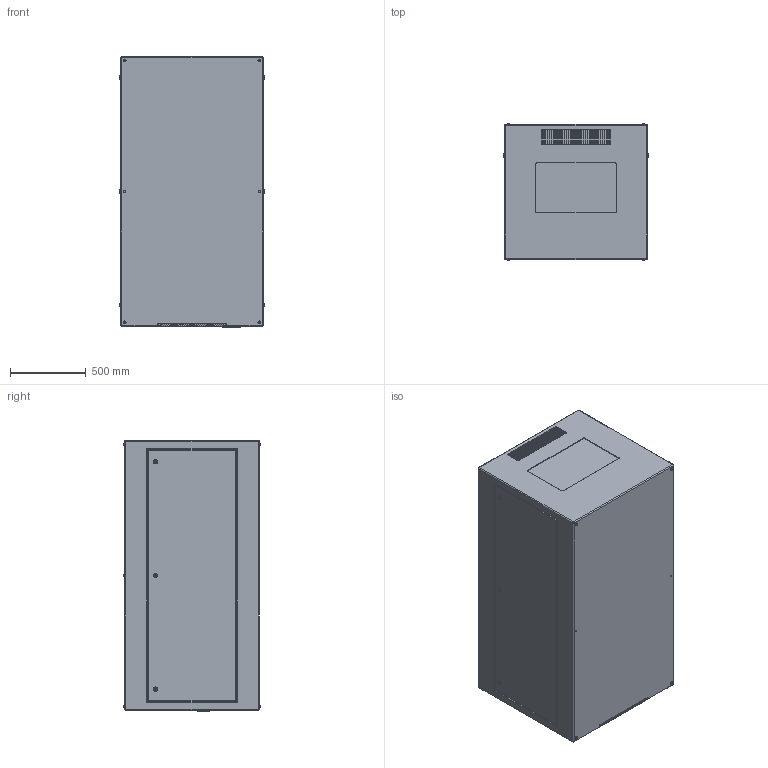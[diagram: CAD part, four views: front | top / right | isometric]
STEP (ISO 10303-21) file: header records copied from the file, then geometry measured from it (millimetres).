
FILE_DESCRIPTION (( 'STEP AP214' ), '1' );
FILE_NAME ('Zen 57.525.L R11 Landscape Hush Enclosure.STEP', '2021-04-23T00:29:17', ( '' ), ( '' ), 'SwSTEP 2.0', 'SolidWorks 2020', '' );
FILE_SCHEMA (( 'AUTOMOTIVE_DESIGN' ));
Length unit declared in the file: inch
Products named in the file (1): Zen 57.525.L R11 Landscape Hush Enclosure
Bounding box: 952.5 x 903.73 x 1785.62 mm (x, y, z)
Volume: 1482867353.4 mm3; surface area: 8817959.1 mm2
Topology: 1 solids, 1 shells, 1125 faces, 2838 edges, 1746 vertices
Faces by surface type: plane 515, cylinder 484, sphere 74, torus 52
Entity records: 36313 total; most frequent: DIRECTION 6040, CARTESIAN_POINT 5684, ORIENTED_EDGE 5528, EDGE_CURVE 2764, AXIS2_PLACEMENT_3D 2166, VERTEX_POINT 1746, LINE 1708, VECTOR 1708
